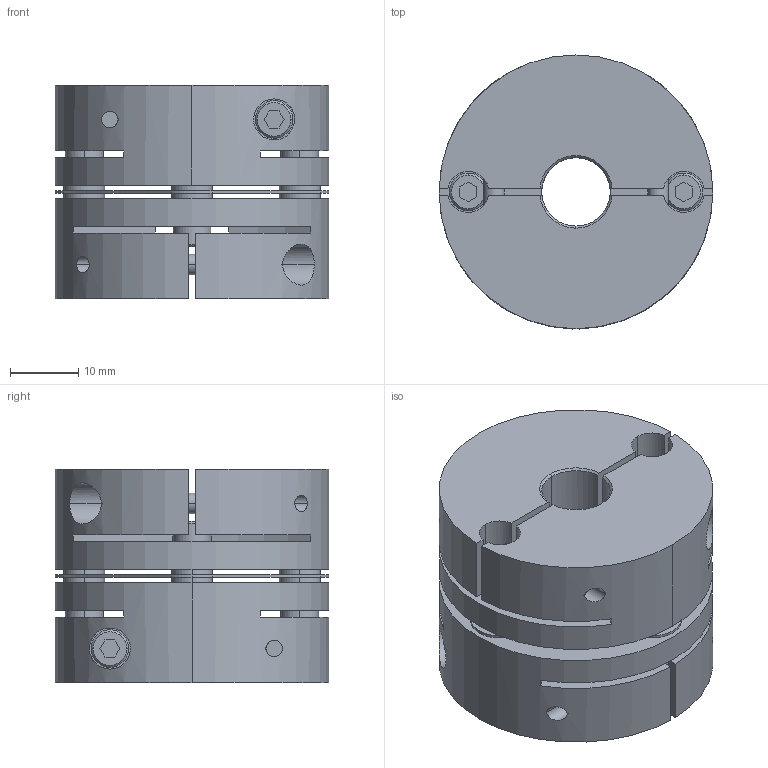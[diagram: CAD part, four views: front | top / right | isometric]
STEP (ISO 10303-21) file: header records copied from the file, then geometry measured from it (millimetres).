
FILE_DESCRIPTION((''),'2;1');
FILE_NAME('LAS-40C-10×14.stp','2011-08-11T08:48:11',(''),(''),'AutoCAD STEP 2000i','AutoCAD 2000i',', , ');
FILE_SCHEMA(('CONFIG_CONTROL_DESIGN'));
Length unit declared in the file: millimetre
Products named in the file (5): LAS-40C-10×10; 忣兜1; LA-4002-D10-1; LA-4002-D10; LAS40-ITA
Assembly tree (4 placements, depth 2):
  LAS-40C-10×10
    忣兜1
    LA-4002-D10-1
    LA-4002-D10
    LAS40-ITA
Bounding box: 40 x 40 x 31.2 mm (x, y, z)
Volume: 30607.7 mm3; surface area: 15424.8 mm2
Topology: 1 solids, 1 shells, 236 faces, 624 edges, 408 vertices
Faces by surface type: plane 112, cylinder 96, cone 28
Entity records: 8107 total; most frequent: CARTESIAN_POINT 1913, DIRECTION 1302, ORIENTED_EDGE 1248, EDGE_CURVE 624, AXIS2_PLACEMENT_3D 477, VERTEX_POINT 408, VECTOR 348, LINE 348
